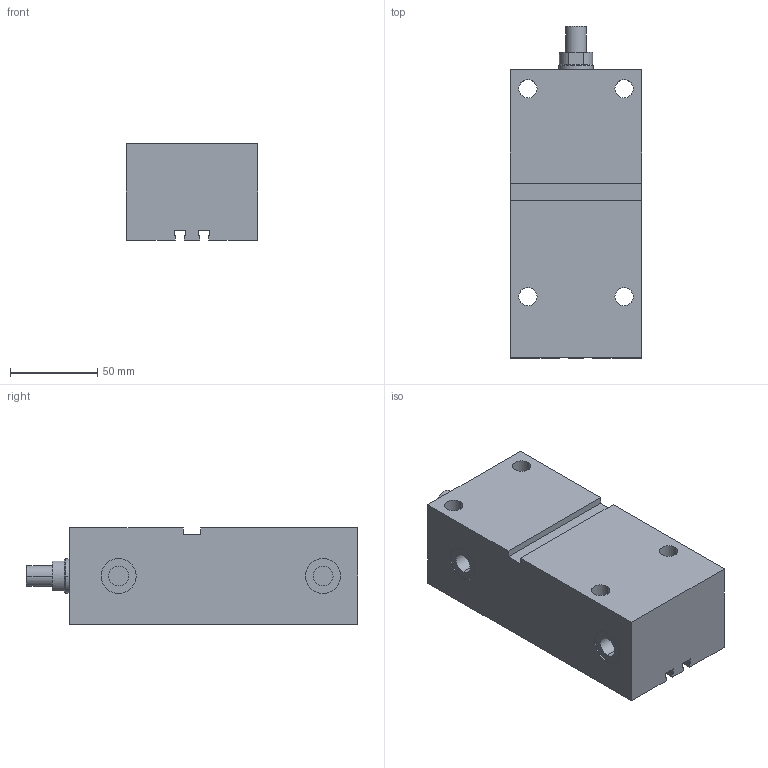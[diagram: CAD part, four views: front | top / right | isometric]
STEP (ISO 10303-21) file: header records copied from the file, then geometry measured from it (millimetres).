
FILE_DESCRIPTION (( 'STEP AP203' ), '1' );
FILE_NAME ('GERMA_Blockzylinder_701-032-100-A.STEP', '2016-07-23T08:32:52', ( '' ), ( '' ), 'SwSTEP 2.0', 'SolidWorks 2015', '' );
FILE_SCHEMA (( 'CONFIG_CONTROL_DESIGN' ));
Length unit declared in the file: millimetre
Products named in the file (3): GH-700-032_GH-701-032-100; Kolben_MT 70x-032_Kolben_MT DU.32-Hub100-AG; GERMA_Blockzylinder_701-032-100-A
Assembly tree (2 placements, depth 2):
  GERMA_Blockzylinder_701-032-100-A
    GH-700-032_GH-701-032-100
    Kolben_MT 70x-032_Kolben_MT DU.32-Hub100-AG
Bounding box: 75 x 190 x 55 mm (x, y, z)
Volume: 599739.2 mm3; surface area: 91403.6 mm2
Topology: 2 solids, 2 shells, 92 faces, 216 edges, 137 vertices
Faces by surface type: plane 43, cylinder 37, cone 12
Entity records: 2938 total; most frequent: DIRECTION 491, CARTESIAN_POINT 446, ORIENTED_EDGE 424, EDGE_CURVE 212, AXIS2_PLACEMENT_3D 182, VERTEX_POINT 137, LINE 127, VECTOR 127
